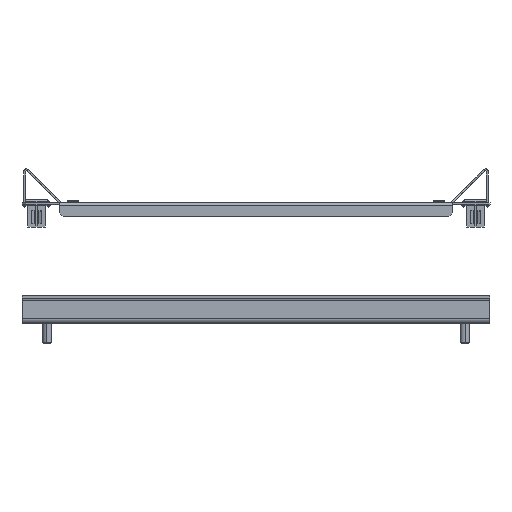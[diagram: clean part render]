
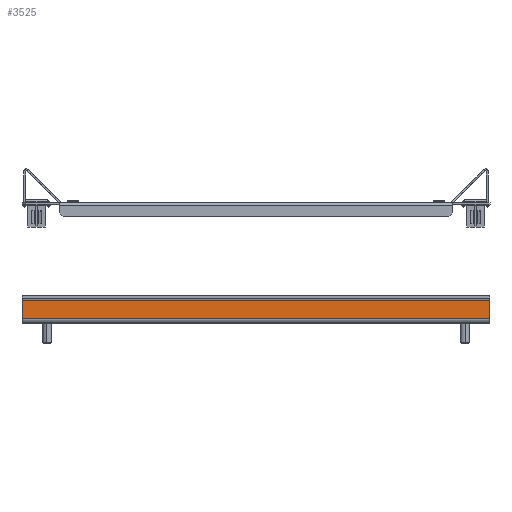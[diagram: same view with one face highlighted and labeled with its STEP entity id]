
A CAD part, front view. The second image highlights one B-rep face of the part: STEP entity #3525.
In plain terms, the highlighted planar face has unit normal (0, -1, 0).
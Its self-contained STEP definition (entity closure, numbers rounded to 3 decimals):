
#1929 = VERTEX_POINT ( 'NONE', #20708 ) ;
#2230 = EDGE_CURVE ( 'NONE', #13151, #6017, #16014, .T. ) ;
#2977 = DIRECTION ( 'NONE',  ( 0., 0., 1. ) ) ;
#3370 = CARTESIAN_POINT ( 'NONE',  ( 125., -13.5, 2.5 ) ) ;
#3510 = CARTESIAN_POINT ( 'NONE',  ( -125., -13.5, 2.5 ) ) ;
#3525 = ADVANCED_FACE ( 'NONE', ( #12531 ), #14100, .F. ) ;
#4260 = EDGE_CURVE ( 'NONE', #1929, #12798, #20531, .T. ) ;
#4283 = ORIENTED_EDGE ( 'NONE', *, *, #4260, .T. ) ;
#4962 = EDGE_LOOP ( 'NONE', ( #4283, #17323, #13498, #7722 ) ) ;
#5260 = DIRECTION ( 'NONE',  ( 0., 0., -1. ) ) ;
#6017 = VERTEX_POINT ( 'NONE', #16449 ) ;
#6547 = LINE ( 'NONE', #12926, #7291 ) ;
#7291 = VECTOR ( 'NONE', #12611, 1000. ) ;
#7722 = ORIENTED_EDGE ( 'NONE', *, *, #13282, .T. ) ;
#8204 = DIRECTION ( 'NONE',  ( -1., 0., 0. ) ) ;
#8309 = LINE ( 'NONE', #3370, #13390 ) ;
#8503 = CARTESIAN_POINT ( 'NONE',  ( 125., -13.5, 12.5 ) ) ;
#10949 = DIRECTION ( 'NONE',  ( 0., 1., 0. ) ) ;
#11011 = AXIS2_PLACEMENT_3D ( 'NONE', #18929, #10949, #2977 ) ;
#12531 = FACE_OUTER_BOUND ( 'NONE', #4962, .T. ) ;
#12611 = DIRECTION ( 'NONE',  ( -1., 0., 0. ) ) ;
#12766 = DIRECTION ( 'NONE',  ( 0., 0., -1. ) ) ;
#12798 = VERTEX_POINT ( 'NONE', #3510 ) ;
#12926 = CARTESIAN_POINT ( 'NONE',  ( 125., -13.5, 12.5 ) ) ;
#13093 = VECTOR ( 'NONE', #12766, 1000. ) ;
#13151 = VERTEX_POINT ( 'NONE', #8503 ) ;
#13282 = EDGE_CURVE ( 'NONE', #13151, #1929, #6547, .T. ) ;
#13390 = VECTOR ( 'NONE', #8204, 1000. ) ;
#13498 = ORIENTED_EDGE ( 'NONE', *, *, #2230, .F. ) ;
#14100 = PLANE ( 'NONE',  #11011 ) ;
#16014 = LINE ( 'NONE', #17997, #13093 ) ;
#16100 = VECTOR ( 'NONE', #5260, 1000. ) ;
#16449 = CARTESIAN_POINT ( 'NONE',  ( 125., -13.5, 2.5 ) ) ;
#17323 = ORIENTED_EDGE ( 'NONE', *, *, #20528, .F. ) ;
#17824 = CARTESIAN_POINT ( 'NONE',  ( -125., -13.5, 2.5 ) ) ;
#17997 = CARTESIAN_POINT ( 'NONE',  ( 125., -13.5, 2.5 ) ) ;
#18929 = CARTESIAN_POINT ( 'NONE',  ( 125., -13.5, 2.5 ) ) ;
#20528 = EDGE_CURVE ( 'NONE', #6017, #12798, #8309, .T. ) ;
#20531 = LINE ( 'NONE', #17824, #16100 ) ;
#20708 = CARTESIAN_POINT ( 'NONE',  ( -125., -13.5, 12.5 ) ) ;
